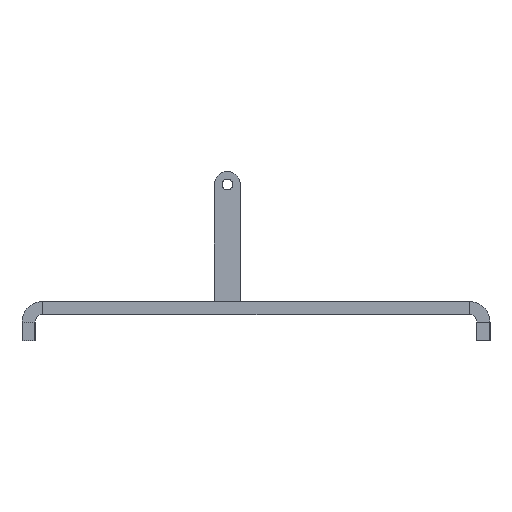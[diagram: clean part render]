
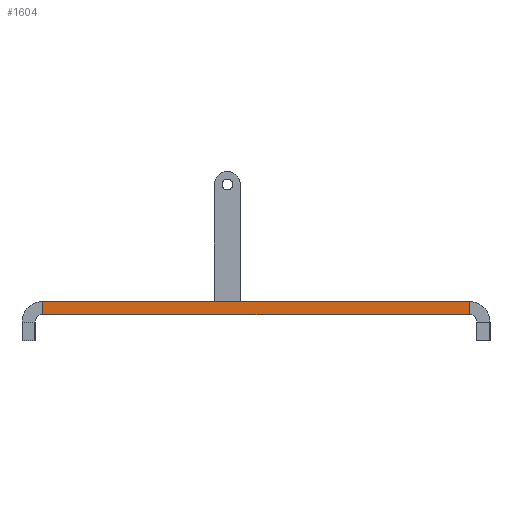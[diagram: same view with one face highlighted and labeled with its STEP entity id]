
A CAD part, left-side view. The second image highlights one B-rep face of the part: STEP entity #1604.
In plain terms, the highlighted planar face has unit normal (-1, 0, 0).
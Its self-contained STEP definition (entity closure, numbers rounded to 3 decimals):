
#1591=AXIS2_PLACEMENT_3D('Plane Axis2P3D',#1588,#1589,#1590) ;
#193=CARTESIAN_POINT('Vertex',(-170.,-82.,0.)) ;
#217=CARTESIAN_POINT('Vertex',(-170.,-82.,5.)) ;
#220=CARTESIAN_POINT('Line Origine',(-170.,-82.,2.5)) ;
#313=CARTESIAN_POINT('Vertex',(-170.,82.,5.)) ;
#316=CARTESIAN_POINT('Line Origine',(-170.,0.,5.)) ;
#861=CARTESIAN_POINT('Line Origine',(-170.,0.,0.)) ;
#865=CARTESIAN_POINT('Vertex',(-170.,82.,0.)) ;
#1588=CARTESIAN_POINT('Axis2P3D Location',(-170.,85.,0.)) ;
#1593=CARTESIAN_POINT('Line Origine',(-170.,82.,2.5)) ;
#221=DIRECTION('Vector Direction',(0.,0.,1.)) ;
#317=DIRECTION('Vector Direction',(0.,1.,0.)) ;
#862=DIRECTION('Vector Direction',(0.,-1.,0.)) ;
#1589=DIRECTION('Axis2P3D Direction',(-1.,0.,0.)) ;
#1590=DIRECTION('Axis2P3D XDirection',(0.,-1.,0.)) ;
#1594=DIRECTION('Vector Direction',(0.,0.,1.)) ;
#222=VECTOR('Line Direction',#221,1.) ;
#318=VECTOR('Line Direction',#317,1.) ;
#863=VECTOR('Line Direction',#862,1.) ;
#1595=VECTOR('Line Direction',#1594,1.) ;
#1599=ORIENTED_EDGE('',*,*,#867,.T.) ;
#1600=ORIENTED_EDGE('',*,*,#224,.T.) ;
#1601=ORIENTED_EDGE('',*,*,#320,.F.) ;
#1602=ORIENTED_EDGE('',*,*,#1597,.F.) ;
#1604=ADVANCED_FACE('\X2\96F64EF651E04F554F53\X0\',(#1603),#1592,.T.) ;
#224=EDGE_CURVE('',#194,#218,#223,.T.) ;
#320=EDGE_CURVE('',#314,#218,#319,.F.) ;
#867=EDGE_CURVE('',#866,#194,#864,.T.) ;
#1597=EDGE_CURVE('',#866,#314,#1596,.T.) ;
#1598=EDGE_LOOP('',(#1599,#1600,#1601,#1602)) ;
#1603=FACE_OUTER_BOUND('',#1598,.T.) ;
#223=LINE('Line',#220,#222) ;
#319=LINE('Line',#316,#318) ;
#864=LINE('Line',#861,#863) ;
#1596=LINE('Line',#1593,#1595) ;
#1592=PLANE('Plane',#1591) ;
#194=VERTEX_POINT('',#193) ;
#218=VERTEX_POINT('',#217) ;
#314=VERTEX_POINT('',#313) ;
#866=VERTEX_POINT('',#865) ;
